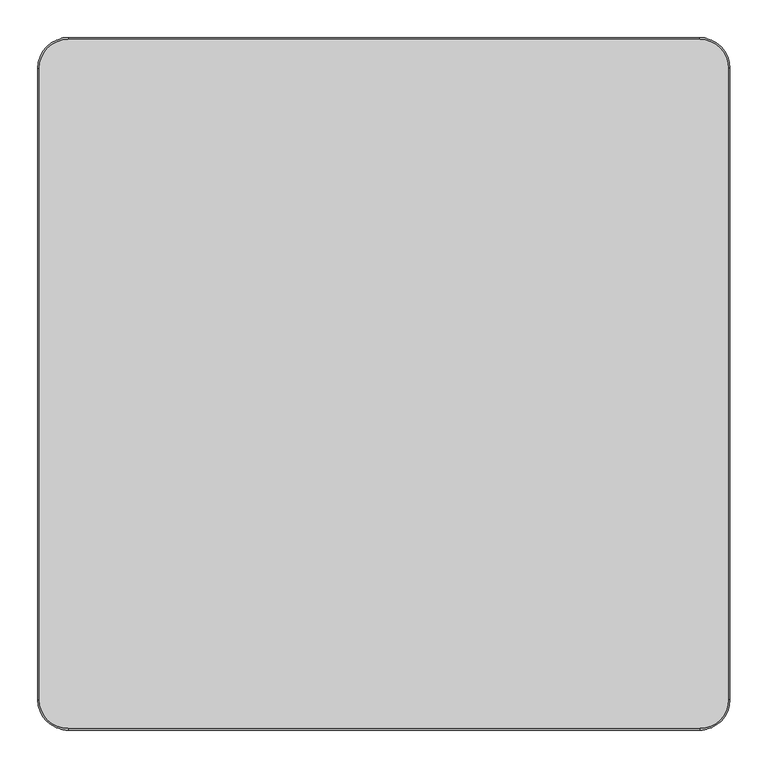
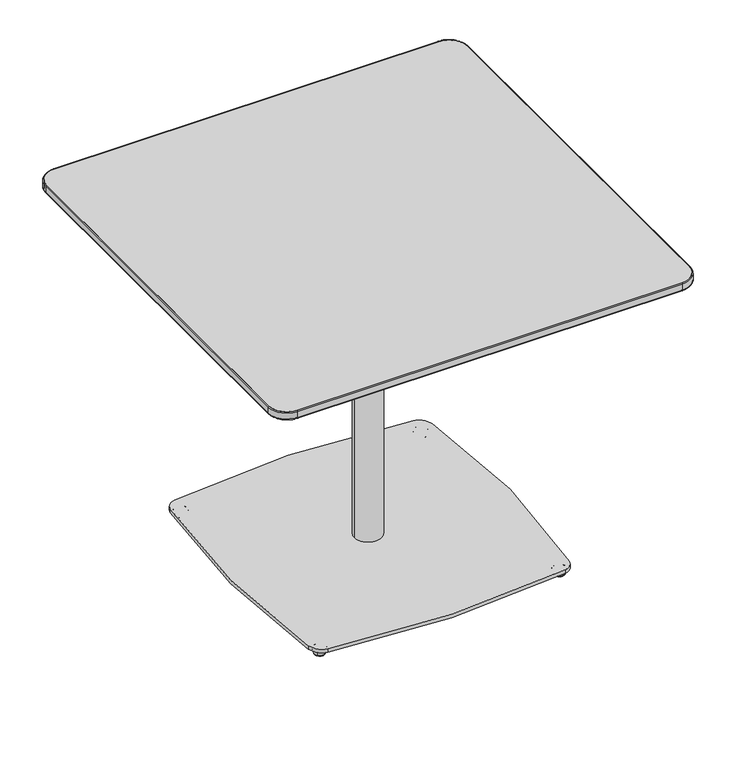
"""IFC4 building model written with IfcOpenShell, lengths in millimetres: furniture geometry, Coalesse_AM_Table_Conference_Montara650_WorkHeight_Square : 36D x 36W."""

from ifc_helpers import new_model, si_unit, point, frame, frame_2d, origin, place, context, project, spatial, polyline, circle_curve, ellipse_curve, trimmed, segment, composite_curve, outline, extrude, source, transform, mapped, element, save
from ifc_brep_helpers import plane_surface, cylinder_surface, revolved_surface, spline_surface, advanced_brep


def furniture_79ca4e86(model_context):
    return source(origin(), model_context, "Body", "SolidModel", [
        advanced_brep(
        [(252.2843813, 244.9990703, 0.0), (266.9696661, 259.6843552, 0.0), (259.6270237, 252.3417127, 0.0), (251.7378791, 244.4525682, 0.5718943), (267.5161683, 260.2308573, 0.5718943), (249.43878, 242.1534691, 11.2068005), (269.8152674, 262.5299564, 11.2068005), (249.8538008, 242.5684899, 11.9999882), (269.4002466, 262.1149356, 11.9999882), (259.6270237, 252.3417127, 11.9999882)],
        [
            (0, 1, circle_curve(frame((259.6270237, 252.3417127, 0.0), z_axis=(0.0, 0.0, -1.0), x_axis=(0.7071067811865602, 0.7071067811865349, 0.0)), 10.3840645)),
            (1, 2),
            (2, 0),
            (1, 0, circle_curve(frame((259.6270237, 252.3417127, 0.0), z_axis=(0.0, 0.0, -1.0), x_axis=(0.7071067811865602, 0.7071067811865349, 0.0)), 10.3840645)),
            (3, 4, circle_curve(frame((259.6270237, 252.3417127, 0.5718943), z_axis=(0.0, 0.0, -1.0), x_axis=(0.7071067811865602, 0.7071067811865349, 0.0)), 11.1569353)),
            (4, 1, circle_curve(frame((266.9696661, 259.6843552, 0.8081846), z_axis=(-0.7071067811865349, 0.7071067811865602, 0.0), x_axis=(0.7071067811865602, 0.7071067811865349, 0.0)), 0.8081846)),
            (0, 3, circle_curve(frame((252.2843813, 244.9990703, 0.8081846), z_axis=(-0.7071067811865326, 0.7071067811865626, 0.0), x_axis=(-0.7071067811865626, -0.7071067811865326, 0.0)), 0.8081846)),
            (4, 3, circle_curve(frame((259.6270237, 252.3417127, 0.5718943), z_axis=(0.0, 0.0, -1.0), x_axis=(0.7071067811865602, 0.7071067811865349, 0.0)), 11.1569353)),
            (5, 6, circle_curve(frame((259.6270237, 252.3417127, 11.2068005), z_axis=(0.0, 0.0, -1.0), x_axis=(0.7071067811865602, 0.7071067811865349, 0.0)), 14.4083524)),
            (6, 4),
            (3, 5),
            (6, 5, circle_curve(frame((259.6270237, 252.3417127, 11.2068005), z_axis=(0.0, 0.0, -1.0), x_axis=(0.7071067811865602, 0.7071067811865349, 0.0)), 14.4083524)),
            (7, 8, circle_curve(frame((259.6270237, 252.3417127, 11.9999882), z_axis=(0.0, 0.0, -1.0), x_axis=(0.7071067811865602, 0.7071067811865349, 0.0)), 13.8214243)),
            (8, 6, circle_curve(frame((269.4002466, 262.1149356, 11.3862424), z_axis=(-0.7071067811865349, 0.7071067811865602, 0.0), x_axis=(0.7071067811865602, 0.7071067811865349, 0.0)), 0.6137458)),
            (5, 7, circle_curve(frame((249.8538008, 242.5684899, 11.3862424), z_axis=(-0.7071067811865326, 0.7071067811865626, 0.0), x_axis=(-0.7071067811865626, -0.7071067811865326, 0.0)), 0.6137458)),
            (8, 7, circle_curve(frame((259.6270237, 252.3417127, 11.9999882), z_axis=(0.0, 0.0, -1.0), x_axis=(0.7071067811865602, 0.7071067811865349, 0.0)), 13.8214243)),
            (9, 8),
            (7, 9),
        ],
        [
            plane_surface(frame((259.6270237, 252.3417127, 0.0), z_axis=(0.0, 0.0, -1.0000000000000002), x_axis=(0.7071067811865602, 0.7071067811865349, 0.0))),
            revolved_surface(trimmed(ellipse_curve(frame((266.9696661, 259.6843552, 0.8081846), z_axis=(0.7071067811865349, -0.7071067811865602, 0.0), x_axis=(0.7071067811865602, 0.7071067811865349, 0.0)), 0.8081846, 0.8081846), [point((266.9696661, 259.6843552, 0.0))], [point((267.5161683, 260.2308573, 0.5718943))], True, "CARTESIAN"), (259.6270237, 252.3417127, 12.2086845), (0.0, 0.0, 1.0)),
            revolved_surface(polyline([(267.5161683, 260.2308573, 0.5718943), (269.8152674, 262.5299564, 11.2068005)]), (259.6270237, 252.3417127, 12.2086845), (0.0, 0.0, 1.0)),
            revolved_surface(trimmed(ellipse_curve(frame((269.4002466, 262.1149356, 11.3862424), z_axis=(0.7071067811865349, -0.7071067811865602, 0.0), x_axis=(0.7071067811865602, 0.7071067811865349, 0.0)), 0.6137458, 0.6137458), [point((269.8152674, 262.5299564, 11.2068005))], [point((269.4002466, 262.1149356, 11.9999882))], True, "CARTESIAN"), (259.6270237, 252.3417127, 12.2086845), (0.0, 0.0, 1.0)),
            plane_surface(frame((259.6270237, 252.3417127, 11.9999882), z_axis=(0.0, 0.0, 1.0000000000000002), x_axis=(0.7071067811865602, 0.7071067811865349, 0.0))),
        ],
        [
            (0, [[1, 2, 3]]),
            (0, [[4, -3, -2]]),
            (1, [[5, 6, -1, 7]]),
            (1, [[8, -7, -4, -6]]),
            (2, [[9, 10, -5, 11]]),
            (2, [[12, -11, -8, -10]]),
            (3, [[13, 14, -9, 15]]),
            (3, [[16, -15, -12, -14]]),
            (4, [[17, -13, 18]]),
            (4, [[-18, -16, -17]]),
        ],
    ),
        advanced_brep(
        [(259.6270237, -268.2167127, 0.0), (266.9696661, -275.5593552, 0.0), (252.2843813, -260.8740703, 0.0), (267.5161683, -276.1058573, 0.5718943), (251.7378791, -260.3275682, 0.5718943), (269.8152674, -278.4049564, 11.2068005), (249.43878, -258.0284691, 11.2068005), (269.4002466, -277.9899356, 11.9999882), (249.8538008, -258.4434899, 11.9999882), (259.6270237, -268.2167127, 11.9999882)],
        [
            (0, 1),
            (1, 2, circle_curve(frame((259.6270237, -268.2167127, 0.0), z_axis=(0.0, 0.0, -1.0), x_axis=(0.7071067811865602, -0.7071067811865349, 0.0)), 10.3840645)),
            (2, 0),
            (2, 1, circle_curve(frame((259.6270237, -268.2167127, 0.0), z_axis=(0.0, 0.0, -1.0), x_axis=(0.7071067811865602, -0.7071067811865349, 0.0)), 10.3840645)),
            (1, 3, circle_curve(frame((266.9696661, -275.5593552, 0.8081846), z_axis=(-0.7071067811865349, -0.7071067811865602, 0.0), x_axis=(0.7071067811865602, -0.7071067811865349, 0.0)), 0.8081846)),
            (3, 4, circle_curve(frame((259.6270237, -268.2167127, 0.5718943), z_axis=(0.0, 0.0, -1.0), x_axis=(0.7071067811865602, -0.7071067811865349, 0.0)), 11.1569353)),
            (4, 2, circle_curve(frame((252.2843813, -260.8740703, 0.8081846), z_axis=(-0.7071067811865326, -0.7071067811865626, 0.0), x_axis=(-0.7071067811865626, 0.7071067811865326, 0.0)), 0.8081846)),
            (4, 3, circle_curve(frame((259.6270237, -268.2167127, 0.5718943), z_axis=(0.0, 0.0, -1.0), x_axis=(0.7071067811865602, -0.7071067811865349, 0.0)), 11.1569353)),
            (3, 5),
            (5, 6, circle_curve(frame((259.6270237, -268.2167127, 11.2068005), z_axis=(0.0, 0.0, -1.0), x_axis=(0.7071067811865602, -0.7071067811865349, 0.0)), 14.4083524)),
            (6, 4),
            (6, 5, circle_curve(frame((259.6270237, -268.2167127, 11.2068005), z_axis=(0.0, 0.0, -1.0), x_axis=(0.7071067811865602, -0.7071067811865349, 0.0)), 14.4083524)),
            (5, 7, circle_curve(frame((269.4002466, -277.9899356, 11.3862424), z_axis=(-0.7071067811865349, -0.7071067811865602, 0.0), x_axis=(0.7071067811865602, -0.7071067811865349, 0.0)), 0.6137458)),
            (7, 8, circle_curve(frame((259.6270237, -268.2167127, 11.9999882), z_axis=(0.0, 0.0, -1.0), x_axis=(0.7071067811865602, -0.7071067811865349, 0.0)), 13.8214243)),
            (8, 6, circle_curve(frame((249.8538008, -258.4434899, 11.3862424), z_axis=(-0.7071067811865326, -0.7071067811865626, 0.0), x_axis=(-0.7071067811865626, 0.7071067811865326, 0.0)), 0.6137458)),
            (8, 7, circle_curve(frame((259.6270237, -268.2167127, 11.9999882), z_axis=(0.0, 0.0, -1.0), x_axis=(0.7071067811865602, -0.7071067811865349, 0.0)), 13.8214243)),
            (7, 9),
            (9, 8),
        ],
        [
            plane_surface(frame((259.6270237, -268.2167127, 0.0), z_axis=(0.0, 0.0, -1.0000000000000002), x_axis=(0.7071067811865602, -0.7071067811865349, 0.0))),
            revolved_surface(trimmed(ellipse_curve(frame((266.9696661, -275.5593552, 0.8081846), z_axis=(0.7071067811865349, 0.7071067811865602, 0.0), x_axis=(0.7071067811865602, -0.7071067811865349, 0.0)), 0.8081846, 0.8081846), [point((267.5161683, -276.1058573, 0.5718943))], [point((266.9696661, -275.5593552, 0.0))], True, "CARTESIAN"), (259.6270237, -268.2167127, 12.2086845), (0.0, 0.0, -1.0)),
            revolved_surface(polyline([(269.8152674, -278.4049564, 11.2068005), (267.5161683, -276.1058573, 0.5718943)]), (259.6270237, -268.2167127, 12.2086845), (0.0, 0.0, -1.0)),
            revolved_surface(trimmed(ellipse_curve(frame((269.4002466, -277.9899356, 11.3862424), z_axis=(0.7071067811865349, 0.7071067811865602, 0.0), x_axis=(0.7071067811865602, -0.7071067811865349, 0.0)), 0.6137458, 0.6137458), [point((269.4002466, -277.9899356, 11.9999882))], [point((269.8152674, -278.4049564, 11.2068005))], True, "CARTESIAN"), (259.6270237, -268.2167127, 12.2086845), (0.0, 0.0, -1.0)),
            plane_surface(frame((259.6270237, -268.2167127, 11.9999882), z_axis=(0.0, 0.0, 1.0000000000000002), x_axis=(0.7071067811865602, -0.7071067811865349, 0.0))),
        ],
        [
            (0, [[1, 2, 3]]),
            (0, [[-3, 4, -1]]),
            (1, [[-2, 5, 6, 7]]),
            (1, [[-4, -7, 8, -5]]),
            (2, [[-6, 9, 10, 11]]),
            (2, [[-8, -11, 12, -9]]),
            (3, [[-10, 13, 14, 15]]),
            (3, [[-12, -15, 16, -13]]),
            (4, [[-14, 17, 18]]),
            (4, [[-16, -18, -17]]),
        ],
    ),
        extrude(outline(composite_curve([segment(trimmed(circle_curve(frame_2d((252.4620101, 244.7741595)), 31.75), [point((257.2212429, 276.1654354))], [point((283.8374336, 249.6368029))], False, "CARTESIAN"), True, "CONTINUOUS"), segment(trimmed(circle_curve(frame_2d((-1338.8141764, -1.8458925)), 1642.0236885), [point((283.8374336, 249.6368029))], [point((281.5966066, -267.3843791))], False, "CARTESIAN"), True, "CONTINUOUS"), segment(trimmed(circle_curve(frame_2d((256.5309305, -263.2768394)), 25.4), [point((281.5966066, -267.3843791))], [point((260.3854879, -288.3826631))], False, "CARTESIAN"), True, "CONTINUOUS"), segment(trimmed(circle_curve(frame_2d((1.8210899, 1395.720493)), 1703.8365498), [point((260.3854879, -288.3826631))], [point((-253.486505, -288.8794656))], False, "CARTESIAN"), True, "CONTINUOUS"), segment(trimmed(circle_curve(frame_2d((-248.7289969, -257.4879282)), 31.75), [point((-253.486505, -288.8794656))], [point((-280.1193859, -262.2530073))], False, "CARTESIAN"), True, "CONTINUOUS"), segment(trimmed(circle_curve(frame_2d((1447.4963883, 5.89e-05)), 1747.4074894), [point((-280.1193859, -262.2530073))], [point((-281.3896101, 253.7442979))], False, "CARTESIAN"), True, "CONTINUOUS"), segment(trimmed(circle_curve(frame_2d((-256.2588351, 250.0559175)), 25.4), [point((-281.3896101, 253.7442979))], [point((-260.1643924, 275.1538581))], False, "CARTESIAN"), True, "CONTINUOUS"), segment(trimmed(circle_curve(frame_2d((1.8210899, -1408.420493)), 1703.8365498), [point((-260.1643924, 275.1538581))], [point((257.2212429, 276.1654354))], False, "CARTESIAN"), True, "CONTINUOUS")], self_intersect=False)), frame((0.0, 0.0, 11.9999882), z_axis=(0.0, 0.0, 1.0), x_axis=(1.0, 0.0, 0.0)), (0.0, 0.0, 1.0), 8.0000083),
        advanced_brep(
        [(-259.6270237, 252.3417127, 0.0), (-266.9696661, 259.6843552, 0.0), (-252.2843813, 244.9990703, 0.0), (-267.5161683, 260.2308573, 0.5718943), (-251.7378791, 244.4525682, 0.5718943), (-269.8152674, 262.5299564, 11.2068005), (-249.43878, 242.1534691, 11.2068005), (-269.4002466, 262.1149356, 11.9999882), (-249.8538008, 242.5684899, 11.9999882), (-259.6270237, 252.3417127, 11.9999882)],
        [
            (0, 1),
            (1, 2, circle_curve(frame((-259.6270237, 252.3417127, 0.0), z_axis=(0.0, 0.0, -1.0), x_axis=(-0.7071067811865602, 0.7071067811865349, 0.0)), 10.3840645)),
            (2, 0),
            (2, 1, circle_curve(frame((-259.6270237, 252.3417127, 0.0), z_axis=(0.0, 0.0, -1.0), x_axis=(-0.7071067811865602, 0.7071067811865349, 0.0)), 10.3840645)),
            (1, 3, circle_curve(frame((-266.9696661, 259.6843552, 0.8081846), z_axis=(0.7071067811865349, 0.7071067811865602, 0.0), x_axis=(-0.7071067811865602, 0.7071067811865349, 0.0)), 0.8081846)),
            (3, 4, circle_curve(frame((-259.6270237, 252.3417127, 0.5718943), z_axis=(0.0, 0.0, -1.0), x_axis=(-0.7071067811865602, 0.7071067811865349, 0.0)), 11.1569353)),
            (4, 2, circle_curve(frame((-252.2843813, 244.9990703, 0.8081846), z_axis=(0.7071067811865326, 0.7071067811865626, 0.0), x_axis=(0.7071067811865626, -0.7071067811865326, 0.0)), 0.8081846)),
            (4, 3, circle_curve(frame((-259.6270237, 252.3417127, 0.5718943), z_axis=(0.0, 0.0, -1.0), x_axis=(-0.7071067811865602, 0.7071067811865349, 0.0)), 11.1569353)),
            (3, 5),
            (5, 6, circle_curve(frame((-259.6270237, 252.3417127, 11.2068005), z_axis=(0.0, 0.0, -1.0), x_axis=(-0.7071067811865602, 0.7071067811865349, 0.0)), 14.4083524)),
            (6, 4),
            (6, 5, circle_curve(frame((-259.6270237, 252.3417127, 11.2068005), z_axis=(0.0, 0.0, -1.0), x_axis=(-0.7071067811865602, 0.7071067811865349, 0.0)), 14.4083524)),
            (5, 7, circle_curve(frame((-269.4002466, 262.1149356, 11.3862424), z_axis=(0.7071067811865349, 0.7071067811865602, 0.0), x_axis=(-0.7071067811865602, 0.7071067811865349, 0.0)), 0.6137458)),
            (7, 8, circle_curve(frame((-259.6270237, 252.3417127, 11.9999882), z_axis=(0.0, 0.0, -1.0), x_axis=(-0.7071067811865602, 0.7071067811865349, 0.0)), 13.8214243)),
            (8, 6, circle_curve(frame((-249.8538008, 242.5684899, 11.3862424), z_axis=(0.7071067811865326, 0.7071067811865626, 0.0), x_axis=(0.7071067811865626, -0.7071067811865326, 0.0)), 0.6137458)),
            (8, 7, circle_curve(frame((-259.6270237, 252.3417127, 11.9999882), z_axis=(0.0, 0.0, -1.0), x_axis=(-0.7071067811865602, 0.7071067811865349, 0.0)), 13.8214243)),
            (7, 9),
            (9, 8),
        ],
        [
            plane_surface(frame((-259.6270237, 252.3417127, 0.0), z_axis=(0.0, 0.0, -1.0000000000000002), x_axis=(-0.7071067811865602, 0.7071067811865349, 0.0))),
            revolved_surface(trimmed(ellipse_curve(frame((-266.9696661, 259.6843552, 0.8081846), z_axis=(-0.7071067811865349, -0.7071067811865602, 0.0), x_axis=(-0.7071067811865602, 0.7071067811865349, 0.0)), 0.8081846, 0.8081846), [point((-267.5161683, 260.2308573, 0.5718943))], [point((-266.9696661, 259.6843552, 0.0))], True, "CARTESIAN"), (-259.6270237, 252.3417127, 12.2086845), (0.0, 0.0, -1.0)),
            revolved_surface(polyline([(-269.8152674, 262.5299564, 11.2068005), (-267.5161683, 260.2308573, 0.5718943)]), (-259.6270237, 252.3417127, 12.2086845), (0.0, 0.0, -1.0)),
            revolved_surface(trimmed(ellipse_curve(frame((-269.4002466, 262.1149356, 11.3862424), z_axis=(-0.7071067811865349, -0.7071067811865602, 0.0), x_axis=(-0.7071067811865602, 0.7071067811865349, 0.0)), 0.6137458, 0.6137458), [point((-269.4002466, 262.1149356, 11.9999882))], [point((-269.8152674, 262.5299564, 11.2068005))], True, "CARTESIAN"), (-259.6270237, 252.3417127, 12.2086845), (0.0, 0.0, -1.0)),
            plane_surface(frame((-259.6270237, 252.3417127, 11.9999882), z_axis=(0.0, 0.0, 1.0000000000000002), x_axis=(-0.7071067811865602, 0.7071067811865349, 0.0))),
        ],
        [
            (0, [[1, 2, 3]]),
            (0, [[-3, 4, -1]]),
            (1, [[-2, 5, 6, 7]]),
            (1, [[-4, -7, 8, -5]]),
            (2, [[-6, 9, 10, 11]]),
            (2, [[-8, -11, 12, -9]]),
            (3, [[-10, 13, 14, 15]]),
            (3, [[-12, -15, 16, -13]]),
            (4, [[-14, 17, 18]]),
            (4, [[-16, -18, -17]]),
        ],
    ),
        advanced_brep(
        [(-252.2843813, -260.8740703, 0.0), (-266.9696661, -275.5593552, 0.0), (-259.6270237, -268.2167127, 0.0), (-251.7378791, -260.3275682, 0.5718943), (-267.5161683, -276.1058573, 0.5718943), (-249.43878, -258.0284691, 11.2068005), (-269.8152674, -278.4049564, 11.2068005), (-249.8538008, -258.4434899, 11.9999882), (-269.4002466, -277.9899356, 11.9999882), (-259.6270237, -268.2167127, 11.9999882)],
        [
            (0, 1, circle_curve(frame((-259.6270237, -268.2167127, 0.0), z_axis=(0.0, 0.0, -1.0), x_axis=(-0.7071067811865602, -0.7071067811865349, 0.0)), 10.3840645)),
            (1, 2),
            (2, 0),
            (1, 0, circle_curve(frame((-259.6270237, -268.2167127, 0.0), z_axis=(0.0, 0.0, -1.0), x_axis=(-0.7071067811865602, -0.7071067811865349, 0.0)), 10.3840645)),
            (3, 4, circle_curve(frame((-259.6270237, -268.2167127, 0.5718943), z_axis=(0.0, 0.0, -1.0), x_axis=(-0.7071067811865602, -0.7071067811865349, 0.0)), 11.1569353)),
            (4, 1, circle_curve(frame((-266.9696661, -275.5593552, 0.8081846), z_axis=(0.7071067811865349, -0.7071067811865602, 0.0), x_axis=(-0.7071067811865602, -0.7071067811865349, 0.0)), 0.8081846)),
            (0, 3, circle_curve(frame((-252.2843813, -260.8740703, 0.8081846), z_axis=(0.7071067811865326, -0.7071067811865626, 0.0), x_axis=(0.7071067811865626, 0.7071067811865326, 0.0)), 0.8081846)),
            (4, 3, circle_curve(frame((-259.6270237, -268.2167127, 0.5718943), z_axis=(0.0, 0.0, -1.0), x_axis=(-0.7071067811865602, -0.7071067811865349, 0.0)), 11.1569353)),
            (5, 6, circle_curve(frame((-259.6270237, -268.2167127, 11.2068005), z_axis=(0.0, 0.0, -1.0), x_axis=(-0.7071067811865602, -0.7071067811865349, 0.0)), 14.4083524)),
            (6, 4),
            (3, 5),
            (6, 5, circle_curve(frame((-259.6270237, -268.2167127, 11.2068005), z_axis=(0.0, 0.0, -1.0), x_axis=(-0.7071067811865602, -0.7071067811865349, 0.0)), 14.4083524)),
            (7, 8, circle_curve(frame((-259.6270237, -268.2167127, 11.9999882), z_axis=(0.0, 0.0, -1.0), x_axis=(-0.7071067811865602, -0.7071067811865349, 0.0)), 13.8214243)),
            (8, 6, circle_curve(frame((-269.4002466, -277.9899356, 11.3862424), z_axis=(0.7071067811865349, -0.7071067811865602, 0.0), x_axis=(-0.7071067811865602, -0.7071067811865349, 0.0)), 0.6137458)),
            (5, 7, circle_curve(frame((-249.8538008, -258.4434899, 11.3862424), z_axis=(0.7071067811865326, -0.7071067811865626, 0.0), x_axis=(0.7071067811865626, 0.7071067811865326, 0.0)), 0.6137458)),
            (8, 7, circle_curve(frame((-259.6270237, -268.2167127, 11.9999882), z_axis=(0.0, 0.0, -1.0), x_axis=(-0.7071067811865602, -0.7071067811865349, 0.0)), 13.8214243)),
            (9, 8),
            (7, 9),
        ],
        [
            plane_surface(frame((-259.6270237, -268.2167127, 0.0), z_axis=(0.0, 0.0, -1.0000000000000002), x_axis=(-0.7071067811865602, -0.7071067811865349, 0.0))),
            revolved_surface(trimmed(ellipse_curve(frame((-266.9696661, -275.5593552, 0.8081846), z_axis=(-0.7071067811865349, 0.7071067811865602, 0.0), x_axis=(-0.7071067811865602, -0.7071067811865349, 0.0)), 0.8081846, 0.8081846), [point((-266.9696661, -275.5593552, 0.0))], [point((-267.5161683, -276.1058573, 0.5718943))], True, "CARTESIAN"), (-259.6270237, -268.2167127, 12.2086845), (0.0, 0.0, 1.0)),
            revolved_surface(polyline([(-267.5161683, -276.1058573, 0.5718943), (-269.8152674, -278.4049564, 11.2068005)]), (-259.6270237, -268.2167127, 12.2086845), (0.0, 0.0, 1.0)),
            revolved_surface(trimmed(ellipse_curve(frame((-269.4002466, -277.9899356, 11.3862424), z_axis=(-0.7071067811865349, 0.7071067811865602, 0.0), x_axis=(-0.7071067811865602, -0.7071067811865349, 0.0)), 0.6137458, 0.6137458), [point((-269.8152674, -278.4049564, 11.2068005))], [point((-269.4002466, -277.9899356, 11.9999882))], True, "CARTESIAN"), (-259.6270237, -268.2167127, 12.2086845), (0.0, 0.0, 1.0)),
            plane_surface(frame((-259.6270237, -268.2167127, 11.9999882), z_axis=(0.0, 0.0, 1.0000000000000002), x_axis=(-0.7071067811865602, -0.7071067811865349, 0.0))),
        ],
        [
            (0, [[1, 2, 3]]),
            (0, [[4, -3, -2]]),
            (1, [[5, 6, -1, 7]]),
            (1, [[8, -7, -4, -6]]),
            (2, [[9, 10, -5, 11]]),
            (2, [[12, -11, -8, -10]]),
            (3, [[13, 14, -9, 15]]),
            (3, [[16, -15, -12, -14]]),
            (4, [[17, -13, 18]]),
            (4, [[-18, -16, -17]]),
        ],
    ),
        advanced_brep(
        [(-259.4526224, 252.1653521, 0.0), (-266.7952648, 259.5079945, 0.0), (-252.1099799, 244.8227097, 0.0), (-267.3417669, 260.0544967, 0.5718943), (-251.5634778, 244.2762075, 0.5718943), (-269.640866, 262.3535958, 11.2068005), (-249.2643787, 241.9771084, 11.2068005), (-269.2258452, 261.938575, 11.9999882), (-249.6793995, 242.3921292, 11.9999882), (-259.4526224, 252.1653521, 11.9999882)],
        [
            (0, 1),
            (1, 2, circle_curve(frame((-259.4526224, 252.1653521, 0.0), z_axis=(0.0, 0.0, -1.0), x_axis=(-0.7071067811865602, 0.7071067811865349, 0.0)), 10.3840645)),
            (2, 0),
            (2, 1, circle_curve(frame((-259.4526224, 252.1653521, 0.0), z_axis=(0.0, 0.0, -1.0), x_axis=(-0.7071067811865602, 0.7071067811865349, 0.0)), 10.3840645)),
            (1, 3, circle_curve(frame((-266.7952648, 259.5079945, 0.8081846), z_axis=(0.7071067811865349, 0.7071067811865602, 0.0), x_axis=(-0.7071067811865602, 0.7071067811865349, 0.0)), 0.8081846)),
            (3, 4, circle_curve(frame((-259.4526224, 252.1653521, 0.5718943), z_axis=(0.0, 0.0, -1.0), x_axis=(-0.7071067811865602, 0.7071067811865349, 0.0)), 11.1569353)),
            (4, 2, circle_curve(frame((-252.1099799, 244.8227097, 0.8081846), z_axis=(0.7071067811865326, 0.7071067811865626, 0.0), x_axis=(0.7071067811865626, -0.7071067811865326, 0.0)), 0.8081846)),
            (4, 3, circle_curve(frame((-259.4526224, 252.1653521, 0.5718943), z_axis=(0.0, 0.0, -1.0), x_axis=(-0.7071067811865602, 0.7071067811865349, 0.0)), 11.1569353)),
            (3, 5),
            (5, 6, circle_curve(frame((-259.4526224, 252.1653521, 11.2068005), z_axis=(0.0, 0.0, -1.0), x_axis=(-0.7071067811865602, 0.7071067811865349, 0.0)), 14.4083524)),
            (6, 4),
            (6, 5, circle_curve(frame((-259.4526224, 252.1653521, 11.2068005), z_axis=(0.0, 0.0, -1.0), x_axis=(-0.7071067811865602, 0.7071067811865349, 0.0)), 14.4083524)),
            (5, 7, circle_curve(frame((-269.2258452, 261.938575, 11.3862424), z_axis=(0.7071067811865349, 0.7071067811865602, 0.0), x_axis=(-0.7071067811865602, 0.7071067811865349, 0.0)), 0.6137458)),
            (7, 8, circle_curve(frame((-259.4526224, 252.1653521, 11.9999882), z_axis=(0.0, 0.0, -1.0), x_axis=(-0.7071067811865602, 0.7071067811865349, 0.0)), 13.8214243)),
            (8, 6, circle_curve(frame((-249.6793995, 242.3921292, 11.3862424), z_axis=(0.7071067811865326, 0.7071067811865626, 0.0), x_axis=(0.7071067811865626, -0.7071067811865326, 0.0)), 0.6137458)),
            (8, 7, circle_curve(frame((-259.4526224, 252.1653521, 11.9999882), z_axis=(0.0, 0.0, -1.0), x_axis=(-0.7071067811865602, 0.7071067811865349, 0.0)), 13.8214243)),
            (7, 9),
            (9, 8),
        ],
        [
            plane_surface(frame((-259.4526224, 252.1653521, 0.0), z_axis=(0.0, 0.0, -1.0000000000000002), x_axis=(-0.7071067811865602, 0.7071067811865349, 0.0))),
            revolved_surface(trimmed(ellipse_curve(frame((-266.7952648, 259.5079945, 0.8081846), z_axis=(-0.7071067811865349, -0.7071067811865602, 0.0), x_axis=(-0.7071067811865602, 0.7071067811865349, 0.0)), 0.8081846, 0.8081846), [point((-267.3417669, 260.0544967, 0.5718943))], [point((-266.7952648, 259.5079945, 0.0))], True, "CARTESIAN"), (-259.4526224, 252.1653521, 12.2086845), (0.0, 0.0, -1.0)),
            revolved_surface(polyline([(-269.640866, 262.3535958, 11.2068005), (-267.3417669, 260.0544967, 0.5718943)]), (-259.4526224, 252.1653521, 12.2086845), (0.0, 0.0, -1.0)),
            revolved_surface(trimmed(ellipse_curve(frame((-269.2258452, 261.938575, 11.3862424), z_axis=(-0.7071067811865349, -0.7071067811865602, 0.0), x_axis=(-0.7071067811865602, 0.7071067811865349, 0.0)), 0.6137458, 0.6137458), [point((-269.2258452, 261.938575, 11.9999882))], [point((-269.640866, 262.3535958, 11.2068005))], True, "CARTESIAN"), (-259.4526224, 252.1653521, 12.2086845), (0.0, 0.0, -1.0)),
            plane_surface(frame((-259.4526224, 252.1653521, 11.9999882), z_axis=(0.0, 0.0, 1.0000000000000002), x_axis=(-0.7071067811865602, 0.7071067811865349, 0.0))),
        ],
        [
            (0, [[1, 2, 3]]),
            (0, [[-3, 4, -1]]),
            (1, [[-2, 5, 6, 7]]),
            (1, [[-4, -7, 8, -5]]),
            (2, [[-6, 9, 10, 11]]),
            (2, [[-8, -11, 12, -9]]),
            (3, [[-10, 13, 14, 15]]),
            (3, [[-12, -15, 16, -13]]),
            (4, [[-14, 17, 18]]),
            (4, [[-16, -18, -17]]),
        ],
    ),
        advanced_brep(
        [(392.2626362, 392.2635082, 693.930027), (392.2626362, -392.2635082, 693.930027), (-392.2626362, -392.2635082, 693.930027), (-392.2626362, 392.2635082, 693.930027), (416.988625, 455.168, 706.195891), (-416.988625, 455.168, 706.195891), (-455.088625, 417.068, 706.195891), (-455.088625, -417.068, 706.195891), (-416.988625, -455.168, 706.195891), (416.988625, -455.168, 706.195891), (455.088625, -417.068, 706.195891), (455.088625, 417.068, 706.195891)],
        [
            (0, 1),
            (1, 2),
            (2, 3),
            (3, 0),
            (4, 5),
            (5, 6, circle_curve(frame((-416.988625, 417.068, 706.195891), z_axis=(0.0, 0.0, 1.0), x_axis=(1.0, 0.0, 0.0)), 38.1)),
            (6, 7),
            (7, 8, circle_curve(frame((-416.988625, -417.068, 706.195891), z_axis=(0.0, 0.0, 1.0), x_axis=(1.0, 0.0, 0.0)), 38.1)),
            (8, 9),
            (9, 10, circle_curve(frame((416.988625, -417.068, 706.195891), z_axis=(0.0, 0.0, 1.0), x_axis=(1.0, 0.0, 0.0)), 38.1)),
            (10, 11),
            (11, 4, circle_curve(frame((416.988625, 417.068, 706.195891), z_axis=(0.0, 0.0, 1.0), x_axis=(1.0, 0.0, 0.0)), 38.1)),
            (11, 0),
            (0, 4),
            (10, 1),
            (9, 1),
            (8, 2),
            (7, 2),
            (6, 3),
            (5, 3),
        ],
        [
            plane_surface(frame((0.0, 0.0, 693.930027), z_axis=(0.0, 0.0, -1.0), x_axis=(-1.0, 0.0, 0.0))),
            plane_surface(frame((0.0, 0.0, 706.195891), z_axis=(0.0, 0.0, 1.0), x_axis=(-1.0, 0.0, 0.0))),
            spline_surface(2, 1, [[(416.988625, 455.168, 706.195891), (392.2626362, 392.2635082, 693.930027)], [(455.08862500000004, 455.16800000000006, 706.195891), (392.2626362, 392.2635082, 693.930027)], [(455.088625, 417.068, 706.195891), (392.2626362, 392.2635082, 693.930027)]], [3, 3], [2, 2], [0.0, 1.0], [0.0, 1.0], weights=[[1.0, 1.0], [0.707106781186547, 0.707106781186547], [1.0, 1.0]]),
            plane_surface(frame((455.088625, 0.0, 706.195891), z_axis=(0.1916177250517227, 0.0, -0.981469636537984), x_axis=(0.0, -1.0, 0.0))),
            spline_surface(2, 1, [[(455.088625, -417.068, 706.195891), (392.2626362, -392.2635082, 693.930027)], [(455.0886249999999, -455.16799999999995, 706.195891), (392.2626362, -392.2635082, 693.930027)], [(416.988625, -455.168, 706.195891), (392.2626362, -392.2635082, 693.930027)]], [3, 3], [2, 2], [0.0, 1.0], [0.0, 1.0], weights=[[1.0, 1.0], [0.7071067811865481, 0.7071067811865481], [1.0, 1.0]]),
            plane_surface(frame((0.0, -455.168, 706.195891), z_axis=(0.0, -0.19138735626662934, -0.9815145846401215), x_axis=(-1.0, 0.0, 0.0))),
            spline_surface(2, 1, [[(-416.988625, -455.168, 706.195891), (-392.2626362, -392.2635082, 693.930027)], [(-455.08862500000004, -455.16800000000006, 706.195891), (-392.2626362, -392.2635082, 693.930027)], [(-455.088625, -417.068, 706.195891), (-392.2626362, -392.2635082, 693.930027)]], [3, 3], [2, 2], [0.0, 1.0], [0.0, 1.0], weights=[[1.0, 1.0], [0.707106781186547, 0.707106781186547], [1.0, 1.0]]),
            plane_surface(frame((-455.088625, 0.0, 706.195891), z_axis=(-0.1916177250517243, 0.0, -0.9814696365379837), x_axis=(0.0, 1.0, 0.0))),
            spline_surface(2, 1, [[(-455.088625, 417.068, 706.195891), (-392.2626362, 392.2635082, 693.930027)], [(-455.0886249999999, 455.16799999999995, 706.195891), (-392.2626362, 392.2635082, 693.930027)], [(-416.988625, 455.168, 706.195891), (-392.2626362, 392.2635082, 693.930027)]], [3, 3], [2, 2], [0.0, 1.0], [0.0, 1.0], weights=[[1.0, 1.0], [0.7071067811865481, 0.7071067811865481], [1.0, 1.0]]),
            plane_surface(frame((0.0, 455.168, 706.195891), z_axis=(0.0, 0.19138735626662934, -0.9815145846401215), x_axis=(1.0, 0.0, 0.0))),
        ],
        [
            (0, [[1, 2, 3, 4]]),
            (1, [[5, 6, 7, 8, 9, 10, 11, 12]]),
            (2, [[-12, 13, 14]]),
            (3, [[-11, 15, -1, -13]]),
            (4, [[-10, 16, -15]]),
            (5, [[-9, 17, -2, -16]]),
            (6, [[-8, 18, -17]]),
            (7, [[-7, 19, -3, -18]]),
            (8, [[-6, 20, -19]]),
            (9, [[-5, -14, -4, -20]]),
        ],
    ),
        extrude(outline(composite_curve([segment(trimmed(circle_curve(frame_2d((416.988625, 417.068)), 38.1), [point((416.988625, 455.168))], [point((455.088625, 417.068))], False, "CARTESIAN"), True, "CONTINUOUS"), segment(polyline([(455.088625, 417.068), (455.088625, -417.068)]), True, "CONTINUOUS"), segment(trimmed(circle_curve(frame_2d((416.988625, -417.068)), 38.1), [point((455.088625, -417.068))], [point((416.988625, -455.168))], False, "CARTESIAN"), True, "CONTINUOUS"), segment(polyline([(416.988625, -455.168), (-416.988625, -455.168)]), True, "CONTINUOUS"), segment(trimmed(circle_curve(frame_2d((-416.988625, -417.068)), 38.1), [point((-416.988625, -455.168))], [point((-455.088625, -417.068))], False, "CARTESIAN"), True, "CONTINUOUS"), segment(polyline([(-455.088625, -417.068), (-455.088625, 417.068)]), True, "CONTINUOUS"), segment(trimmed(circle_curve(frame_2d((-416.988625, 417.068)), 38.1), [point((-455.088625, 417.068))], [point((-416.988625, 455.168))], False, "CARTESIAN"), True, "CONTINUOUS"), segment(polyline([(-416.988625, 455.168), (416.988625, 455.168)]), True, "CONTINUOUS")], self_intersect=False)), frame((0.0, 0.0, 706.195891), z_axis=(0.0, 0.0, 1.0), x_axis=(1.0, 0.0, 0.0)), (0.0, 0.0, 1.0), 17.704109),
        advanced_brep(
        [(-457.1644915, 417.068, 708.1278467), (-416.988625, 457.2438665, 708.1278467), (-416.988625, 455.168, 706.195891), (-455.088625, 417.068, 706.195891), (-457.1644915, 417.068, 721.8999283), (-416.988625, 457.2438665, 721.8999283), (-455.088625, 417.068, 723.9), (-416.988625, 455.168, 723.9), (-455.088625, -417.068, 706.195891), (-457.1644915, -417.068, 708.1278467), (-457.1644915, -417.068, 721.8999283), (-455.088625, -417.068, 723.9), (-416.988625, -457.2438665, 708.1278467), (-416.988625, -455.168, 706.195891), (-416.988625, -457.2438665, 721.8999283), (-416.988625, -455.168, 723.9), (416.988625, -455.168, 706.195891), (416.988625, -457.2438665, 708.1278467), (416.988625, -457.2438665, 721.8999283), (416.988625, -455.168, 723.9), (457.1644915, -417.068, 708.1278467), (455.088625, -417.068, 706.195891), (457.1644915, -417.068, 721.8999283), (455.088625, -417.068, 723.9), (455.088625, 417.068, 706.195891), (457.1644915, 417.068, 708.1278467), (457.1644915, 417.068, 721.8999283), (455.088625, 417.068, 723.9), (416.988625, 457.2438665, 708.1278467), (416.988625, 455.168, 706.195891), (416.988625, 457.2438665, 721.8999283), (416.988625, 455.168, 723.9)],
        [
            (0, 1, circle_curve(frame((-416.988625, 417.068, 708.1278467), z_axis=(0.0, 0.0, -1.0), x_axis=(0.0, 1.0, 0.0)), 40.1758665)),
            (1, 2, circle_curve(frame((-416.988625, 455.3069224, 708.1278467), z_axis=(-1.0, 0.0, 0.0), x_axis=(0.0, -1.0, 0.0)), 1.9369441)),
            (2, 3, circle_curve(frame((-416.988625, 417.068, 706.195891), z_axis=(0.0, 0.0, 1.0), x_axis=(0.0, 1.0, 0.0)), 38.1)),
            (3, 0, circle_curve(frame((-455.2275474, 417.068, 708.1278467), z_axis=(0.0, 1.0, 0.0), x_axis=(1.0, 0.0, 0.0)), 1.9369441)),
            (4, 5, circle_curve(frame((-416.988625, 417.068, 721.8999283), z_axis=(0.0, 0.0, -1.0), x_axis=(0.0, 1.0, 0.0)), 40.1758665)),
            (5, 1),
            (0, 4),
            (6, 7, circle_curve(frame((-416.988625, 417.068, 723.9), z_axis=(0.0, 0.0, -1.0), x_axis=(0.0, 1.0, 0.0)), 38.1)),
            (7, 5, circle_curve(frame((-416.988625, 455.2424111, 721.8999283), z_axis=(-1.0, 0.0, 0.0), x_axis=(0.0, -1.0, 0.0)), 2.0014554)),
            (4, 6, circle_curve(frame((-455.1630361, 417.068, 721.8999283), z_axis=(0.0, 1.0, 0.0), x_axis=(1.0, 0.0, 0.0)), 2.0014554)),
            (2, 7),
            (6, 3),
            (3, 8),
            (8, 9, circle_curve(frame((-455.2275474, -417.068, 708.1278467), z_axis=(0.0, 1.0, 0.0), x_axis=(1.0, 0.0, 0.0)), 1.9369441)),
            (9, 0),
            (9, 10),
            (10, 4),
            (10, 11, circle_curve(frame((-455.1630361, -417.068, 721.8999283), z_axis=(0.0, 1.0, 0.0), x_axis=(1.0, 0.0, 0.0)), 2.0014554)),
            (11, 6),
            (11, 8),
            (12, 9, circle_curve(frame((-416.988625, -417.068, 708.1278467), z_axis=(0.0, 0.0, -1.0), x_axis=(-1.0, 0.0, 0.0)), 40.1758665)),
            (8, 13, circle_curve(frame((-416.988625, -417.068, 706.195891), z_axis=(0.0, 0.0, 1.0), x_axis=(-1.0, 0.0, 0.0)), 38.1)),
            (13, 12, circle_curve(frame((-416.988625, -455.3069224, 708.1278467), z_axis=(-1.0, 0.0, 0.0), x_axis=(0.0, 1.0, 0.0)), 1.9369441)),
            (14, 10, circle_curve(frame((-416.988625, -417.068, 721.8999283), z_axis=(0.0, 0.0, -1.0), x_axis=(-1.0, 0.0, 0.0)), 40.1758665)),
            (12, 14),
            (15, 11, circle_curve(frame((-416.988625, -417.068, 723.9), z_axis=(0.0, 0.0, -1.0), x_axis=(-1.0, 0.0, 0.0)), 38.1)),
            (14, 15, circle_curve(frame((-416.988625, -455.2424111, 721.8999283), z_axis=(-1.0, 0.0, 0.0), x_axis=(0.0, 1.0, 0.0)), 2.0014554)),
            (15, 13),
            (13, 16),
            (16, 17, circle_curve(frame((416.988625, -455.3069224, 708.1278467), z_axis=(-1.0, 0.0, 0.0), x_axis=(0.0, 1.0, 0.0)), 1.9369441)),
            (17, 12),
            (17, 18),
            (18, 14),
            (18, 19, circle_curve(frame((416.988625, -455.2424111, 721.8999283), z_axis=(-1.0, 0.0, 0.0), x_axis=(0.0, 1.0, 0.0)), 2.0014554)),
            (19, 15),
            (19, 16),
            (20, 17, circle_curve(frame((416.988625, -417.068, 708.1278467), z_axis=(0.0, 0.0, -1.0), x_axis=(0.0, -1.0, 0.0)), 40.1758665)),
            (16, 21, circle_curve(frame((416.988625, -417.068, 706.195891), z_axis=(0.0, 0.0, 1.0), x_axis=(0.0, -1.0, 0.0)), 38.1)),
            (21, 20, circle_curve(frame((455.2275474, -417.068, 708.1278467), z_axis=(0.0, -1.0, 0.0), x_axis=(-1.0, 0.0, 0.0)), 1.9369441)),
            (22, 18, circle_curve(frame((416.988625, -417.068, 721.8999283), z_axis=(0.0, 0.0, -1.0), x_axis=(0.0, -1.0, 0.0)), 40.1758665)),
            (20, 22),
            (23, 19, circle_curve(frame((416.988625, -417.068, 723.9), z_axis=(0.0, 0.0, -1.0), x_axis=(0.0, -1.0, 0.0)), 38.1)),
            (22, 23, circle_curve(frame((455.1630361, -417.068, 721.8999283), z_axis=(0.0, -1.0, 0.0), x_axis=(-1.0, 0.0, 0.0)), 2.0014554)),
            (23, 21),
            (21, 24),
            (24, 25, circle_curve(frame((455.2275474, 417.068, 708.1278467), z_axis=(0.0, -1.0, 0.0), x_axis=(-1.0, 0.0, 0.0)), 1.9369441)),
            (25, 20),
            (25, 26),
            (26, 22),
            (26, 27, circle_curve(frame((455.1630361, 417.068, 721.8999283), z_axis=(0.0, -1.0, 0.0), x_axis=(-1.0, 0.0, 0.0)), 2.0014554)),
            (27, 23),
            (27, 24),
            (28, 25, circle_curve(frame((416.988625, 417.068, 708.1278467), z_axis=(0.0, 0.0, -1.0), x_axis=(1.0, 0.0, 0.0)), 40.1758665)),
            (24, 29, circle_curve(frame((416.988625, 417.068, 706.195891), z_axis=(0.0, 0.0, 1.0), x_axis=(1.0, 0.0, 0.0)), 38.1)),
            (29, 28, circle_curve(frame((416.988625, 455.3069224, 708.1278467), z_axis=(1.0, 0.0, 0.0), x_axis=(0.0, -1.0, 0.0)), 1.9369441)),
            (30, 26, circle_curve(frame((416.988625, 417.068, 721.8999283), z_axis=(0.0, 0.0, -1.0), x_axis=(1.0, 0.0, 0.0)), 40.1758665)),
            (28, 30),
            (31, 27, circle_curve(frame((416.988625, 417.068, 723.9), z_axis=(0.0, 0.0, -1.0), x_axis=(1.0, 0.0, 0.0)), 38.1)),
            (30, 31, circle_curve(frame((416.988625, 455.2424111, 721.8999283), z_axis=(1.0, 0.0, 0.0), x_axis=(0.0, -1.0, 0.0)), 2.0014554)),
            (31, 29),
            (29, 2),
            (1, 28),
            (5, 30),
            (7, 31),
        ],
        [
            revolved_surface(trimmed(ellipse_curve(frame((-416.988625, 455.3069224, 708.1278467), z_axis=(1.0, 0.0, 0.0), x_axis=(0.0, -1.0, 0.0)), 1.9369441, 1.9369441), [point((-416.988625, 455.168, 706.195891))], [point((-416.988625, 457.2438665, 708.1278467))], True, "CARTESIAN"), (-416.988625, 417.068, 0.0), (0.0, 0.0, 1.0)),
            cylinder_surface(frame((-416.988625, 417.068, 0.0), z_axis=(0.0, 0.0, 1.0), x_axis=(0.0, 1.0, 0.0)), 40.1758665),
            revolved_surface(trimmed(ellipse_curve(frame((-416.988625, 455.2424111, 721.8999283), z_axis=(1.0, 0.0, 0.0), x_axis=(0.0, -1.0, 0.0)), 2.0014554, 2.0014554), [point((-416.988625, 457.2438665, 721.8999283))], [point((-416.988625, 455.168, 723.9))], True, "CARTESIAN"), (-416.988625, 417.068, 0.0), (0.0, 0.0, 1.0)),
            revolved_surface(polyline([(-416.988625, 455.168, 723.9), (-416.988625, 455.168, 706.195891)]), (-416.988625, 417.068, 0.0), (0.0, 0.0, 1.0)),
            cylinder_surface(frame((-455.2275474, 417.068, 708.1278467), z_axis=(0.0, 1.0, 0.0), x_axis=(1.0, 0.0, 0.0)), 1.9369441),
            plane_surface(frame((-457.1644915, 417.068, 708.1278467), z_axis=(-1.0, 0.0, 0.0), x_axis=(0.0, -1.0, 0.0))),
            cylinder_surface(frame((-455.1630361, 417.068, 721.8999283), z_axis=(0.0, 1.0, 0.0), x_axis=(1.0, 0.0, 0.0)), 2.0014554),
            plane_surface(frame((-455.088625, 417.068, 723.9), z_axis=(1.0, 0.0, 0.0), x_axis=(0.0, -1.0, 0.0))),
            revolved_surface(trimmed(ellipse_curve(frame((-455.2275474, -417.068, 708.1278467), z_axis=(0.0, 1.0, 0.0), x_axis=(1.0, 0.0, 0.0)), 1.9369441, 1.9369441), [point((-455.088625, -417.068, 706.195891))], [point((-457.1644915, -417.068, 708.1278467))], True, "CARTESIAN"), (-416.988625, -417.068, 0.0), (0.0, 0.0, 1.0)),
            cylinder_surface(frame((-416.988625, -417.068, 0.0), z_axis=(0.0, 0.0, 1.0), x_axis=(-1.0, 0.0, 0.0)), 40.1758665),
            revolved_surface(trimmed(ellipse_curve(frame((-455.1630361, -417.068, 721.8999283), z_axis=(0.0, 1.0, 0.0), x_axis=(1.0, 0.0, 0.0)), 2.0014554, 2.0014554), [point((-457.1644915, -417.068, 721.8999283))], [point((-455.088625, -417.068, 723.9))], True, "CARTESIAN"), (-416.988625, -417.068, 0.0), (0.0, 0.0, 1.0)),
            revolved_surface(polyline([(-455.08862500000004, -417.068, 723.9), (-455.08862500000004, -417.068, 706.195891)]), (-416.988625, -417.068, 0.0), (0.0, 0.0, 1.0)),
            cylinder_surface(frame((-416.988625, -455.3069224, 708.1278467), z_axis=(-1.0, 0.0, 0.0), x_axis=(0.0, 1.0, 0.0)), 1.9369441),
            plane_surface(frame((-416.988625, -457.2438665, 708.1278467), z_axis=(0.0, -1.0, 0.0), x_axis=(1.0, 0.0, 0.0))),
            cylinder_surface(frame((-416.988625, -455.2424111, 721.8999283), z_axis=(-1.0, 0.0, 0.0), x_axis=(0.0, 1.0, 0.0)), 2.0014554),
            plane_surface(frame((-416.988625, -455.168, 723.9), z_axis=(0.0, 1.0, 0.0), x_axis=(1.0, 0.0, 0.0))),
            revolved_surface(trimmed(ellipse_curve(frame((416.988625, -455.3069224, 708.1278467), z_axis=(-1.0, 0.0, 0.0), x_axis=(0.0, 1.0, 0.0)), 1.9369441, 1.9369441), [point((416.988625, -455.168, 706.195891))], [point((416.988625, -457.2438665, 708.1278467))], True, "CARTESIAN"), (416.988625, -417.068, 0.0), (0.0, 0.0, 1.0)),
            cylinder_surface(frame((416.988625, -417.068, 0.0), z_axis=(0.0, 0.0, 1.0), x_axis=(0.0, -1.0, 0.0)), 40.1758665),
            revolved_surface(trimmed(ellipse_curve(frame((416.988625, -455.2424111, 721.8999283), z_axis=(-1.0, 0.0, 0.0), x_axis=(0.0, 1.0, 0.0)), 2.0014554, 2.0014554), [point((416.988625, -457.2438665, 721.8999283))], [point((416.988625, -455.168, 723.9))], True, "CARTESIAN"), (416.988625, -417.068, 0.0), (0.0, 0.0, 1.0)),
            revolved_surface(polyline([(416.988625, -455.168, 723.9), (416.988625, -455.168, 706.195891)]), (416.988625, -417.068, 0.0), (0.0, 0.0, 1.0)),
            cylinder_surface(frame((455.2275474, -417.068, 708.1278467), z_axis=(0.0, -1.0, 0.0), x_axis=(-1.0, 0.0, 0.0)), 1.9369441),
            plane_surface(frame((457.1644915, -417.068, 708.1278467), z_axis=(1.0, 0.0, 0.0), x_axis=(0.0, 1.0, 0.0))),
            cylinder_surface(frame((455.1630361, -417.068, 721.8999283), z_axis=(0.0, -1.0, 0.0), x_axis=(-1.0, 0.0, 0.0)), 2.0014554),
            plane_surface(frame((455.088625, -417.068, 723.9), z_axis=(-1.0, 0.0, 0.0), x_axis=(0.0, 1.0, 0.0))),
            revolved_surface(trimmed(ellipse_curve(frame((455.2275474, 417.068, 708.1278467), z_axis=(0.0, -1.0, 0.0), x_axis=(-1.0, 0.0, 0.0)), 1.9369441, 1.9369441), [point((455.088625, 417.068, 706.195891))], [point((457.1644915, 417.068, 708.1278467))], True, "CARTESIAN"), (416.988625, 417.068, 0.0), (0.0, 0.0, 1.0)),
            cylinder_surface(frame((416.988625, 417.068, 0.0), z_axis=(0.0, 0.0, 1.0), x_axis=(1.0, 0.0, 0.0)), 40.1758665),
            revolved_surface(trimmed(ellipse_curve(frame((455.1630361, 417.068, 721.8999283), z_axis=(0.0, -1.0, 0.0), x_axis=(-1.0, 0.0, 0.0)), 2.0014554, 2.0014554), [point((457.1644915, 417.068, 721.8999283))], [point((455.088625, 417.068, 723.9))], True, "CARTESIAN"), (416.988625, 417.068, 0.0), (0.0, 0.0, 1.0)),
            revolved_surface(polyline([(455.08862500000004, 417.068, 723.9), (455.08862500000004, 417.068, 706.195891)]), (416.988625, 417.068, 0.0), (0.0, 0.0, 1.0)),
            cylinder_surface(frame((416.988625, 455.3069224, 708.1278467), z_axis=(1.0, 0.0, 0.0), x_axis=(0.0, -1.0, 0.0)), 1.9369441),
            plane_surface(frame((416.988625, 457.2438665, 708.1278467), z_axis=(0.0, 1.0, 0.0), x_axis=(-1.0, 0.0, 0.0))),
            cylinder_surface(frame((416.988625, 455.2424111, 721.8999283), z_axis=(1.0, 0.0, 0.0), x_axis=(0.0, -1.0, 0.0)), 2.0014554),
            plane_surface(frame((416.988625, 455.168, 723.9), z_axis=(0.0, -1.0, 0.0), x_axis=(-1.0, 0.0, 0.0))),
        ],
        [
            (0, [[1, 2, 3, 4]]),
            (1, [[5, 6, -1, 7]]),
            (2, [[8, 9, -5, 10]]),
            (3, [[-3, 11, -8, 12]]),
            (4, [[-4, 13, 14, 15]]),
            (5, [[-7, -15, 16, 17]]),
            (6, [[-10, -17, 18, 19]]),
            (7, [[-12, -19, 20, -13]]),
            (8, [[21, -14, 22, 23]]),
            (9, [[24, -16, -21, 25]]),
            (10, [[26, -18, -24, 27]]),
            (11, [[-22, -20, -26, 28]]),
            (12, [[-23, 29, 30, 31]]),
            (13, [[-25, -31, 32, 33]]),
            (14, [[-27, -33, 34, 35]]),
            (15, [[-28, -35, 36, -29]]),
            (16, [[37, -30, 38, 39]]),
            (17, [[40, -32, -37, 41]]),
            (18, [[42, -34, -40, 43]]),
            (19, [[-38, -36, -42, 44]]),
            (20, [[-39, 45, 46, 47]]),
            (21, [[-41, -47, 48, 49]]),
            (22, [[-43, -49, 50, 51]]),
            (23, [[-44, -51, 52, -45]]),
            (24, [[53, -46, 54, 55]]),
            (25, [[56, -48, -53, 57]]),
            (26, [[58, -50, -56, 59]]),
            (27, [[-54, -52, -58, 60]]),
            (28, [[-55, 61, -2, 62]]),
            (29, [[-57, -62, -6, 63]]),
            (30, [[-59, -63, -9, 64]]),
            (31, [[-60, -64, -11, -61]]),
        ],
    ),
        advanced_brep(
        [(131.6004101, 0.0, 690.755027), (-131.6004101, 0.0, 690.755027), (-176.1626132, 0.0, 690.755027), (176.1626132, 0.0, 690.755027), (121.0488662, 0.0, 689.6460151), (-121.0488662, 0.0, 689.6460151), (48.7461809, 0.0, 674.9837029), (-48.7461809, 0.0, 674.9837029), (37.412985, 0.0, 674.9837029), (-37.412985, 0.0, 674.9837029), (29.5495828, 0.0, 19.9999965), (-29.5495828, 0.0, 19.9999965), (-29.5495828, 0.0, 686.7852036), (29.5495828, 0.0, 686.7852036), (0.0, 0.0, 19.9999965), (176.1626132, 0.0, 693.930027), (-176.1626132, 0.0, 693.930027), (0.0, 0.0, 693.930027), (33.3511087, 0.0, 676.4383874), (-33.3511087, 0.0, 676.4383874), (31.712334, 0.0, 686.7852036), (-31.712334, 0.0, 686.7852036)],
        [
            (0, 1, circle_curve(frame((0.0, 0.0, 690.755027), z_axis=(0.0, 0.0, 1.0), x_axis=(-1.0, 0.0, 0.0)), 131.6004101)),
            (1, 2),
            (2, 3, circle_curve(frame((0.0, 0.0, 690.755027), z_axis=(0.0, 0.0, -1.0), x_axis=(-1.0, 0.0, 0.0)), 176.1626132)),
            (3, 0),
            (1, 0, circle_curve(frame((0.0, 0.0, 690.755027), z_axis=(0.0, 0.0, 1.0), x_axis=(-1.0, 0.0, 0.0)), 131.6004101)),
            (3, 2, circle_curve(frame((0.0, 0.0, 690.755027), z_axis=(0.0, 0.0, -1.0), x_axis=(-1.0, 0.0, 0.0)), 176.1626132)),
            (4, 5, circle_curve(frame((0.0, 0.0, 689.6460151), z_axis=(0.0, 0.0, 1.0), x_axis=(-1.0, 0.0, 0.0)), 121.0488662)),
            (5, 1),
            (0, 4),
            (5, 4, circle_curve(frame((0.0, 0.0, 689.6460151), z_axis=(0.0, 0.0, 1.0), x_axis=(-1.0, 0.0, 0.0)), 121.0488662)),
            (6, 7, circle_curve(frame((0.0, 0.0, 674.9837029), z_axis=(0.0, 0.0, 1.0), x_axis=(-1.0, 0.0, 0.0)), 48.7461809)),
            (7, 5),
            (4, 6),
            (7, 6, circle_curve(frame((0.0, 0.0, 674.9837029), z_axis=(0.0, 0.0, 1.0), x_axis=(-1.0, 0.0, 0.0)), 48.7461809)),
            (8, 9, circle_curve(frame((0.0, 0.0, 674.9837029), z_axis=(0.0, 0.0, 1.0), x_axis=(-1.0, 0.0, 0.0)), 37.412985)),
            (9, 7),
            (6, 8),
            (9, 8, circle_curve(frame((0.0, 0.0, 674.9837029), z_axis=(0.0, 0.0, 1.0), x_axis=(-1.0, 0.0, 0.0)), 37.412985)),
            (10, 11, circle_curve(frame((0.0, 0.0, 19.9999965), z_axis=(0.0, 0.0, 1.0), x_axis=(-1.0, 0.0, 0.0)), 29.5495828)),
            (11, 12),
            (12, 13, circle_curve(frame((0.0, 0.0, 686.7852036), z_axis=(0.0, 0.0, -1.0), x_axis=(-1.0, 0.0, 0.0)), 29.5495828)),
            (13, 10),
            (11, 10, circle_curve(frame((0.0, 0.0, 19.9999965), z_axis=(0.0, 0.0, 1.0), x_axis=(-1.0, 0.0, 0.0)), 29.5495828)),
            (13, 12, circle_curve(frame((0.0, 0.0, 686.7852036), z_axis=(0.0, 0.0, -1.0), x_axis=(-1.0, 0.0, 0.0)), 29.5495828)),
            (14, 11),
            (10, 14),
            (15, 16, circle_curve(frame((0.0, 0.0, 693.930027), z_axis=(0.0, 0.0, 1.0), x_axis=(-1.0, 0.0, 0.0)), 176.1626132)),
            (16, 17),
            (17, 15),
            (16, 15, circle_curve(frame((0.0, 0.0, 693.930027), z_axis=(0.0, 0.0, 1.0), x_axis=(-1.0, 0.0, 0.0)), 176.1626132)),
            (2, 16),
            (15, 3),
            (18, 19, circle_curve(frame((0.0, 0.0, 676.4383874), z_axis=(0.0, 0.0, 1.0), x_axis=(-1.0, 0.0, 0.0)), 33.3511087)),
            (19, 9),
            (8, 18),
            (19, 18, circle_curve(frame((0.0, 0.0, 676.4383874), z_axis=(0.0, 0.0, 1.0), x_axis=(-1.0, 0.0, 0.0)), 33.3511087)),
            (20, 21, circle_curve(frame((0.0, 0.0, 686.7852036), z_axis=(0.0, 0.0, 1.0), x_axis=(-1.0, 0.0, 0.0)), 31.712334)),
            (21, 19),
            (18, 20),
            (21, 20, circle_curve(frame((0.0, 0.0, 686.7852036), z_axis=(0.0, 0.0, 1.0), x_axis=(-1.0, 0.0, 0.0)), 31.712334)),
            (12, 21),
            (20, 13),
        ],
        [
            plane_surface(frame((0.0, 0.0, 690.755027), z_axis=(0.0, 0.0, -1.0), x_axis=(-1.0, 0.0, 0.0))),
            revolved_surface(polyline([(-131.6004101, 0.0, 690.755027), (-121.0488662, 0.0, 689.6460151)]), (0.0, 0.0, 439.0999965), (0.0, 0.0, -1.0)),
            revolved_surface(polyline([(-121.0488662, 0.0, 689.6460151), (-48.7461809, 0.0, 674.9837029)]), (0.0, 0.0, 439.0999965), (0.0, 0.0, -1.0)),
            plane_surface(frame((0.0, 0.0, 674.9837029), z_axis=(0.0, 0.0, -1.0), x_axis=(-1.0, 0.0, 0.0))),
            cylinder_surface(frame((0.0, 0.0, 439.0999965), z_axis=(0.0, 0.0, -1.0), x_axis=(-1.0, 0.0, 0.0)), 29.5495828),
            plane_surface(frame((0.0, 0.0, 19.9999965), z_axis=(0.0, 0.0, -1.0), x_axis=(-1.0, 0.0, 0.0))),
            plane_surface(frame((0.0, 0.0, 693.930027), z_axis=(0.0, 0.0, 1.0), x_axis=(-1.0, 0.0, 0.0))),
            cylinder_surface(frame((0.0, 0.0, 439.0999965), z_axis=(0.0, 0.0, -1.0), x_axis=(-1.0, 0.0, 0.0)), 176.1626132),
            revolved_surface(polyline([(-37.412985, 0.0, 674.9837029), (-33.3511087, 0.0, 676.4383874)]), (0.0, 0.0, 439.0999965), (0.0, 0.0, -1.0)),
            revolved_surface(polyline([(-33.3511087, 0.0, 676.4383874), (-31.712334, 0.0, 686.7852036)]), (0.0, 0.0, 439.0999965), (0.0, 0.0, -1.0)),
            plane_surface(frame((0.0, 0.0, 686.7852036), z_axis=(0.0, 0.0, -1.0), x_axis=(-1.0, 0.0, 0.0))),
        ],
        [
            (0, [[1, 2, 3, 4]]),
            (0, [[5, -4, 6, -2]]),
            (1, [[7, 8, -1, 9]]),
            (1, [[10, -9, -5, -8]]),
            (2, [[11, 12, -7, 13]]),
            (2, [[14, -13, -10, -12]]),
            (3, [[15, 16, -11, 17]]),
            (3, [[18, -17, -14, -16]]),
            (4, [[19, 20, 21, 22]]),
            (4, [[23, -22, 24, -20]]),
            (5, [[25, -19, 26]]),
            (5, [[-26, -23, -25]]),
            (6, [[27, 28, 29]]),
            (6, [[30, -29, -28]]),
            (7, [[-3, 31, -27, 32]]),
            (7, [[-6, -32, -30, -31]]),
            (8, [[33, 34, -15, 35]]),
            (8, [[36, -35, -18, -34]]),
            (9, [[37, 38, -33, 39]]),
            (9, [[40, -39, -36, -38]]),
            (10, [[-21, 41, -37, 42]]),
            (10, [[-24, -42, -40, -41]]),
        ],
    ),
    ])


if __name__ == "__main__":
    model = new_model("IFC4")
    model_context = context("Model", 3, world=origin())
    ifc_project = project(units=[si_unit("LENGTHUNIT", "METRE", prefix="MILLI")], contexts=[model_context])
    site = spatial("IfcSite", under=ifc_project)
    building = spatial("IfcBuilding", under=site)
    placement = place(None, origin())
    furniture_shape = furniture_79ca4e86(model_context)
    element("IfcFurniture", 1, ObjectType="Coalesse_AM_Table_Conference_Montara650_WorkHeight_Square : 36D x 36W", at=placement, inside=building, context=model_context, shape_type="MappedRepresentation", body=[
        mapped(furniture_shape, transform((0.0, 0.0, 0.0), x_axis=(1.0, 0.0, 0.0), y_axis=(0.0, 1.0, 0.0), z_axis=(0.0, 0.0, 1.0))),
    ])
    save(model, "model.ifc")
